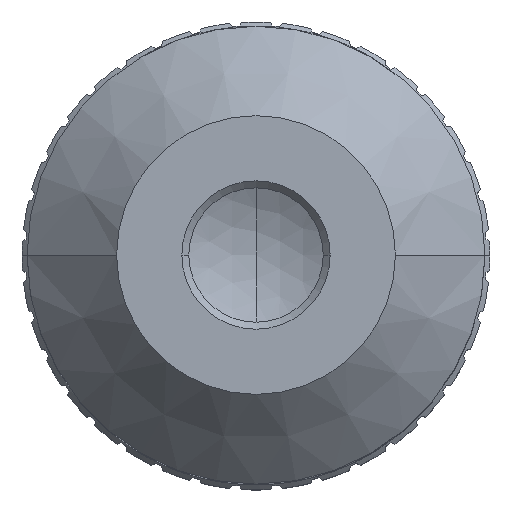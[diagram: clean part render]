
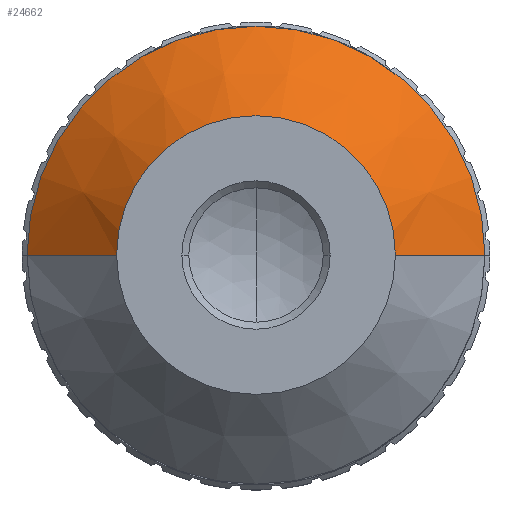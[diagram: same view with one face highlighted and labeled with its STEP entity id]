
A CAD part, top view. The second image highlights one B-rep face of the part: STEP entity #24662.
In plain terms, the highlighted conical face has half-angle 45 degrees and reference radius 23 mm.
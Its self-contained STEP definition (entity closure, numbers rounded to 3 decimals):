
#964 = AXIS2_PLACEMENT_3D ( 'NONE', #3796, #103360, #20638 ) ;
#2825 = ORIENTED_EDGE ( 'NONE', *, *, #37491, .F. ) ;
#3709 = EDGE_CURVE ( 'NONE', #22103, #53104, #32796, .T. ) ;
#3796 = CARTESIAN_POINT ( 'NONE',  ( 0., 0., -20.5 ) ) ;
#5154 = CARTESIAN_POINT ( 'NONE',  ( -14., 0., -11.5 ) ) ;
#9653 = AXIS2_PLACEMENT_3D ( 'NONE', #58765, #99048, #75077 ) ;
#12871 = VERTEX_POINT ( 'NONE', #59949 ) ;
#20638 = DIRECTION ( 'NONE',  ( 1., 0., 0. ) ) ;
#21560 = VECTOR ( 'NONE', #24648, 1000. ) ;
#21740 = CONICAL_SURFACE ( 'NONE', #9653, 23., 0.785 ) ;
#22103 = VERTEX_POINT ( 'NONE', #5154 ) ;
#24648 = DIRECTION ( 'NONE',  ( -0.707, 0., -0.707 ) ) ;
#24662 = ADVANCED_FACE ( 'NONE', ( #100101 ), #21740, .T. ) ;
#27496 = AXIS2_PLACEMENT_3D ( 'NONE', #61657, #53474, #94820 ) ;
#31726 = EDGE_CURVE ( 'NONE', #12871, #53104, #37182, .T. ) ;
#32796 = LINE ( 'NONE', #99215, #21560 ) ;
#34702 = ORIENTED_EDGE ( 'NONE', *, *, #3709, .F. ) ;
#37182 = CIRCLE ( 'NONE', #964, 23. ) ;
#37491 = EDGE_CURVE ( 'NONE', #82465, #22103, #81466, .T. ) ;
#49587 = LINE ( 'NONE', #82787, #86145 ) ;
#53104 = VERTEX_POINT ( 'NONE', #99698 ) ;
#53474 = DIRECTION ( 'NONE',  ( 0., 0., 1. ) ) ;
#58070 = ORIENTED_EDGE ( 'NONE', *, *, #31726, .T. ) ;
#58765 = CARTESIAN_POINT ( 'NONE',  ( 0., 0., -20.5 ) ) ;
#59753 = EDGE_LOOP ( 'NONE', ( #2825, #69573, #58070, #34702 ) ) ;
#59949 = CARTESIAN_POINT ( 'NONE',  ( 23., 0., -20.5 ) ) ;
#61657 = CARTESIAN_POINT ( 'NONE',  ( 0., 0., -11.5 ) ) ;
#69573 = ORIENTED_EDGE ( 'NONE', *, *, #106130, .T. ) ;
#75077 = DIRECTION ( 'NONE',  ( -1., 0., 0. ) ) ;
#81466 = CIRCLE ( 'NONE', #27496, 14. ) ;
#82465 = VERTEX_POINT ( 'NONE', #93779 ) ;
#82787 = CARTESIAN_POINT ( 'NONE',  ( 23., 0., -20.5 ) ) ;
#86145 = VECTOR ( 'NONE', #107268, 1000. ) ;
#93779 = CARTESIAN_POINT ( 'NONE',  ( 14., 0., -11.5 ) ) ;
#94820 = DIRECTION ( 'NONE',  ( 1., 0., 0. ) ) ;
#99048 = DIRECTION ( 'NONE',  ( 0., 0., -1. ) ) ;
#99215 = CARTESIAN_POINT ( 'NONE',  ( -23., 0., -20.5 ) ) ;
#99698 = CARTESIAN_POINT ( 'NONE',  ( -23., 0., -20.5 ) ) ;
#100101 = FACE_OUTER_BOUND ( 'NONE', #59753, .T. ) ;
#103360 = DIRECTION ( 'NONE',  ( 0., 0., 1. ) ) ;
#106130 = EDGE_CURVE ( 'NONE', #82465, #12871, #49587, .T. ) ;
#107268 = DIRECTION ( 'NONE',  ( 0.707, 0., -0.707 ) ) ;
